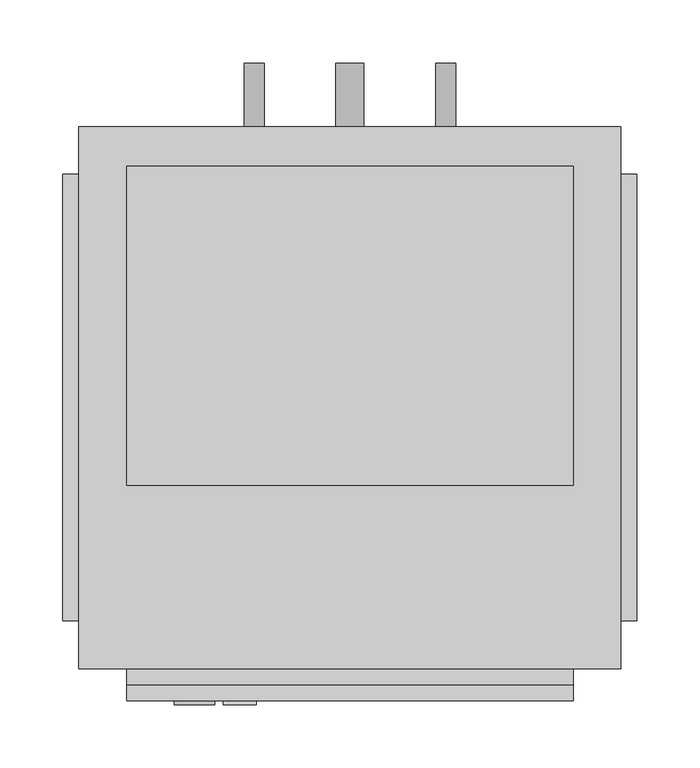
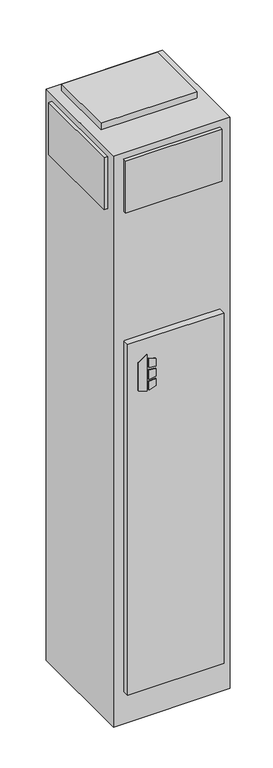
"""IFC4 building model written with IfcOpenShell, lengths in millimetres: proxy geometry, Concealed_Modular_Fan_Coil_Unit_-_MPY_-_IEC_-_2-Pipe_Cool-EHeat_-_NoRisers_2022 : Size 03 - 277v/60Hz/1Ph - 4 Row 3.0kW."""

from ifc_helpers import new_model, si_unit, point, frame, frame_2d, origin, origin_with_axes, place, context, project, spatial, polyline, circle_curve, trimmed, segment, composite_curve, outline, extrude, source, transform, mapped, element, save


def mechanical_equipment_66b3db64(model_context):
    return source(origin(), model_context, "Body", "SweptSolid", [
        extrude(outline(polyline([(1305.3480703, 228.6), (1295.4, 260.7733866), (1437.5709244, 260.7733866), (1414.5489183, 228.6), (1305.3480703, 228.6)])), frame((0.0, -215.9, 0.0), z_axis=(0.0, 1.0, 0.0), x_axis=(0.0, 0.0, 1.0)), (0.0, 0.0, 1.0), 3.175),
        extrude(outline(polyline([(1384.3473557, 267.5317195), (1381.1449632, 293.6131138), (1410.3738042, 293.6131138), (1418.4382193, 267.5317195), (1384.3473557, 267.5317195)])), frame((0.0, -215.9, 0.0), z_axis=(0.0, 1.0, 0.0), x_axis=(0.0, 0.0, 1.0)), (0.0, 0.0, 1.0), 3.175),
        extrude(outline(polyline([(1332.4838288, 293.6131138), (1328.8183279, 267.5317195), (1295.4, 267.5317195), (1304.0342372, 293.6131138), (1332.4838288, 293.6131138)])), frame((0.0, -215.9, 0.0), z_axis=(0.0, 1.0, 0.0), x_axis=(0.0, 0.0, 1.0)), (0.0, 0.0, 1.0), 3.175),
        extrude(outline(polyline([(1371.7989903, 293.6131138), (1374.0808166, 267.5317195), (1338.1432681, 267.5317195), (1340.8845331, 293.6131138), (1371.7989903, 293.6131138)])), frame((0.0, -215.9, 0.0), z_axis=(0.0, 1.0, 0.0), x_axis=(0.0, 0.0, 1.0)), (0.0, 0.0, 1.0), 3.175),
        extrude(outline(composite_curve([segment(trimmed(circle_curve(frame_2d((990.6, 444.5)), 7.9375), [point((990.6, 436.5625))], [point((990.6, 452.4375))], False, "CARTESIAN"), True, "CONTINUOUS"), segment(trimmed(circle_curve(frame_2d((990.6, 444.5)), 7.9375), [point((990.6, 452.4375))], [point((990.6, 436.5625))], False, "CARTESIAN"), True, "CONTINUOUS")], self_intersect=False)), frame((0.0, 244.475, 0.0), z_axis=(0.0, 1.0, 0.0), x_axis=(0.0, 0.0, 1.0)), (0.0, 0.0, 1.0), 50.8),
        extrude(outline(composite_curve([segment(trimmed(circle_curve(frame_2d((990.6, 292.1)), 7.9375), [point((990.6, 284.1625))], [point((990.6, 300.0375))], False, "CARTESIAN"), True, "CONTINUOUS"), segment(trimmed(circle_curve(frame_2d((990.6, 292.1)), 7.9375), [point((990.6, 300.0375))], [point((990.6, 284.1625))], False, "CARTESIAN"), True, "CONTINUOUS")], self_intersect=False)), frame((0.0, 244.475, 0.0), z_axis=(0.0, 1.0, 0.0), x_axis=(0.0, 0.0, 1.0)), (0.0, 0.0, 1.0), 50.8),
        extrude(outline(composite_curve([segment(trimmed(circle_curve(frame_2d((76.2, 368.3)), 11.1125), [point((76.2, 357.1875))], [point((76.2, 379.4125))], False, "CARTESIAN"), True, "CONTINUOUS"), segment(trimmed(circle_curve(frame_2d((76.2, 368.3)), 11.1125), [point((76.2, 379.4125))], [point((76.2, 357.1875))], False, "CARTESIAN"), True, "CONTINUOUS")], self_intersect=False)), frame((0.0, 244.475, 0.0), z_axis=(0.0, 1.0, 0.0), x_axis=(0.0, 0.0, 1.0)), (0.0, 0.0, 1.0), 50.8),
        extrude(outline(polyline([(546.1, 212.725), (546.1, -41.275), (190.5, -41.275), (190.5, 212.725), (546.1, 212.725)])), frame((0.0, 0.0, 2235.2), z_axis=(0.0, 0.0, 1.0), x_axis=(1.0, 0.0, 0.0)), (0.0, 0.0, 1.0), 25.4),
        extrude(outline(polyline([(139.7, -149.225), (139.7, 206.375), (152.4, 206.375), (152.4, -149.225), (139.7, -149.225)])), frame((0.0, 0.0, 2006.6), z_axis=(0.0, 0.0, 1.0), x_axis=(1.0, 0.0, 0.0)), (0.0, 0.0, 1.0), 203.2),
        extrude(outline(polyline([(596.9, 206.375), (596.9, -149.225), (584.2, -149.225), (584.2, 206.375), (596.9, 206.375)])), frame((0.0, 0.0, 2006.6), z_axis=(0.0, 0.0, 1.0), x_axis=(1.0, 0.0, 0.0)), (0.0, 0.0, 1.0), 203.2),
        extrude(outline(polyline([(546.1, -200.025), (190.5, -200.025), (190.5, -187.325), (546.1, -187.325), (546.1, -200.025)])), frame((0.0, 0.0, 2006.6), z_axis=(0.0, 0.0, 1.0), x_axis=(1.0, 0.0, 0.0)), (0.0, 0.0, 1.0), 203.2),
        extrude(outline(polyline([(546.1, -212.725), (190.5, -212.725), (190.5, -187.325), (546.1, -187.325), (546.1, -212.725)])), frame((0.0, 0.0, 127.0), z_axis=(0.0, 0.0, 1.0), x_axis=(1.0, 0.0, 0.0)), (0.0, 0.0, 1.0), 1371.6),
        extrude(outline(polyline([(584.2, 244.475), (584.2, -187.325), (152.4, -187.325), (152.4, 244.475), (584.2, 244.475)])), origin_with_axes(), (0.0, 0.0, 1.0), 2235.2),
    ])


if __name__ == "__main__":
    model = new_model("IFC4")
    model_context = context("Model", 3, world=origin())
    ifc_project = project(units=[si_unit("LENGTHUNIT", "METRE", prefix="MILLI")], contexts=[model_context])
    site = spatial("IfcSite", under=ifc_project)
    building = spatial("IfcBuilding", under=site)
    placement = place(None, origin())
    mechanical_equipment_shape = mechanical_equipment_66b3db64(model_context)
    element("IfcBuildingElementProxy", 1, Name="Concealed_Modular_Fan_Coil_Unit_-_MPY_-_IEC_-_2-Pipe_Cool-EHeat_-_NoRisers_2022 : Size 03 - 277v/60Hz/1Ph - 4 Row 3.0kW", ObjectType="Concealed_Modular_Fan_Coil_Unit_-_MPY_-_IEC_-_2-Pipe_Cool-EHeat_-_NoRisers_2022 : Size 03 - 277v/60Hz/1Ph - 4 Row 3.0kW", at=placement, inside=building, context=model_context, shape_type="MappedRepresentation", body=[
        mapped(mechanical_equipment_shape, transform((0.0, 0.0, 0.0), x_axis=(1.0, 0.0, 0.0), y_axis=(0.0, 1.0, 0.0), z_axis=(0.0, 0.0, 1.0))),
    ])
    save(model, "model.ifc")
